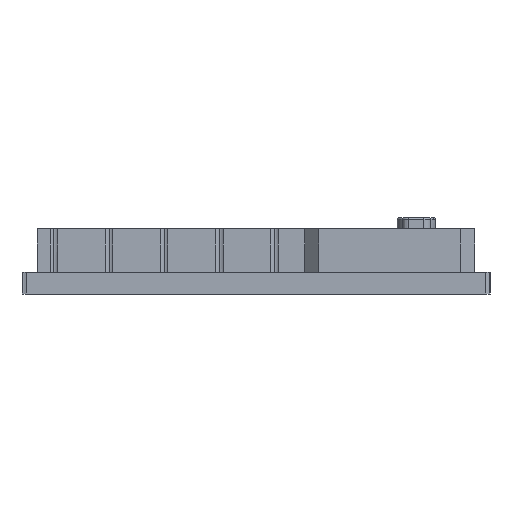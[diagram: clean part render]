
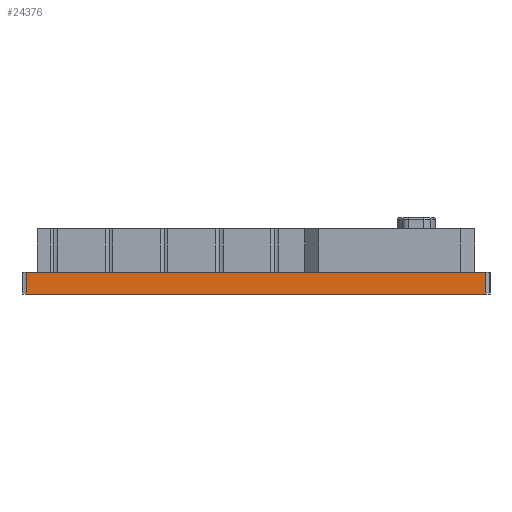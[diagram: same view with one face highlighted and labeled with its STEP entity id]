
A CAD part, left-side view. The second image highlights one B-rep face of the part: STEP entity #24376.
In plain terms, the highlighted planar face has unit normal (-1, 0, 0).
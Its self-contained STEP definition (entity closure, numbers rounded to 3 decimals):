
#592 = CARTESIAN_POINT ( 'NONE',  ( -52.494, 4.202, -2. ) ) ;
#636 = CARTESIAN_POINT ( 'NONE',  ( -52.494, 4.202, 31.924 ) ) ;
#837 = CARTESIAN_POINT ( 'NONE',  ( -52.494, -16.948, -3. ) ) ;
#1920 = LINE ( 'NONE', #5339, #21433 ) ;
#1964 = EDGE_CURVE ( 'NONE', #24580, #9793, #1920, .T. ) ;
#2205 = CARTESIAN_POINT ( 'NONE',  ( -52.494, -16.948, -2. ) ) ;
#3012 = ORIENTED_EDGE ( 'NONE', *, *, #21776, .F. ) ;
#3711 = DIRECTION ( 'NONE',  ( 0., 0., -1. ) ) ;
#4212 = ORIENTED_EDGE ( 'NONE', *, *, #23116, .T. ) ;
#4484 = DIRECTION ( 'NONE',  ( 0., 1., 0. ) ) ;
#5339 = CARTESIAN_POINT ( 'NONE',  ( -52.494, -16.948, 31.924 ) ) ;
#6495 = CARTESIAN_POINT ( 'NONE',  ( -52.494, -16.948, -2. ) ) ;
#7532 = FACE_OUTER_BOUND ( 'NONE', #24276, .T. ) ;
#7758 = CARTESIAN_POINT ( 'NONE',  ( -52.494, -16.948, 31.924 ) ) ;
#9793 = VERTEX_POINT ( 'NONE', #13268 ) ;
#9913 = ORIENTED_EDGE ( 'NONE', *, *, #11694, .T. ) ;
#11694 = EDGE_CURVE ( 'NONE', #13942, #24284, #20206, .T. ) ;
#12313 = DIRECTION ( 'NONE',  ( 0., 0., -1. ) ) ;
#12422 = VECTOR ( 'NONE', #14579, 1000. ) ;
#13268 = CARTESIAN_POINT ( 'NONE',  ( -52.494, -16.948, -3. ) ) ;
#13529 = VECTOR ( 'NONE', #12313, 1000. ) ;
#13942 = VERTEX_POINT ( 'NONE', #592 ) ;
#14579 = DIRECTION ( 'NONE',  ( 0., 1., 0. ) ) ;
#16703 = CARTESIAN_POINT ( 'NONE',  ( -52.494, 4.202, -3. ) ) ;
#17423 = DIRECTION ( 'NONE',  ( 0., 0., -1. ) ) ;
#19204 = PLANE ( 'NONE',  #20260 ) ;
#19373 = VECTOR ( 'NONE', #4484, 1000. ) ;
#19595 = LINE ( 'NONE', #2205, #19373 ) ;
#20206 = LINE ( 'NONE', #636, #13529 ) ;
#20260 = AXIS2_PLACEMENT_3D ( 'NONE', #7758, #21498, #3711 ) ;
#20811 = ORIENTED_EDGE ( 'NONE', *, *, #1964, .F. ) ;
#21433 = VECTOR ( 'NONE', #17423, 1000. ) ;
#21498 = DIRECTION ( 'NONE',  ( -1., 0., 0. ) ) ;
#21776 = EDGE_CURVE ( 'NONE', #9793, #24284, #22193, .T. ) ;
#22193 = LINE ( 'NONE', #837, #12422 ) ;
#23116 = EDGE_CURVE ( 'NONE', #24580, #13942, #19595, .T. ) ;
#24276 = EDGE_LOOP ( 'NONE', ( #20811, #4212, #9913, #3012 ) ) ;
#24284 = VERTEX_POINT ( 'NONE', #16703 ) ;
#24376 = ADVANCED_FACE ( 'NONE', ( #7532 ), #19204, .T. ) ;
#24580 = VERTEX_POINT ( 'NONE', #6495 ) ;
